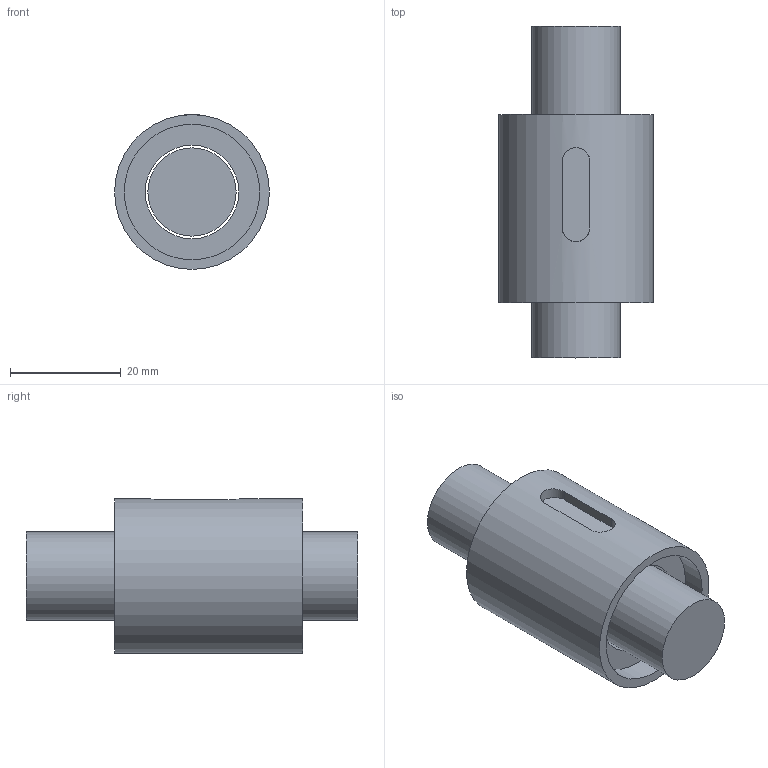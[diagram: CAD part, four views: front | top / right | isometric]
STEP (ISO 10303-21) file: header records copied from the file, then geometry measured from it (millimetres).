
FILE_DESCRIPTION(/* description */ (''),/* implementation_level */ '2;1');
FILE_NAME(/* name */ '1605.prt.step',/* time_stamp */ '2008-12-05T16:34:01+08:00',/* author */ (''),/* organization */ (''),/* preprocessor_version */ 'ST-DEVELOPER v11',/* originating_system */ 'SIEMENS UGS NX 6.0',/* authorisation */ '');
FILE_SCHEMA (('AUTOMOTIVE_DESIGN { 1 0 10303 214 1 1 1 1 }'));
Length unit declared in the file: millimetre
Products named in the file (1): 1605
Bounding box: 28 x 60 x 28 mm (x, y, z)
Volume: 23028.2 mm3; surface area: 9261.2 mm2
Topology: 2 solids, 2 shells, 16 faces, 28 edges, 19 vertices
Faces by surface type: plane 9, cylinder 7
Full cylindrical faces by diameter (mm): 15.95 x1, 16.9 x1, 24.5 x2, 28 x1
Entity records: 448 total; most frequent: CARTESIAN_POINT 117, DIRECTION 66, ORIENTED_EDGE 44, AXIS2_PLACEMENT_3D 29, EDGE_LOOP 26, EDGE_CURVE 22, FACE_BOUND 19, VERTEX_POINT 18
